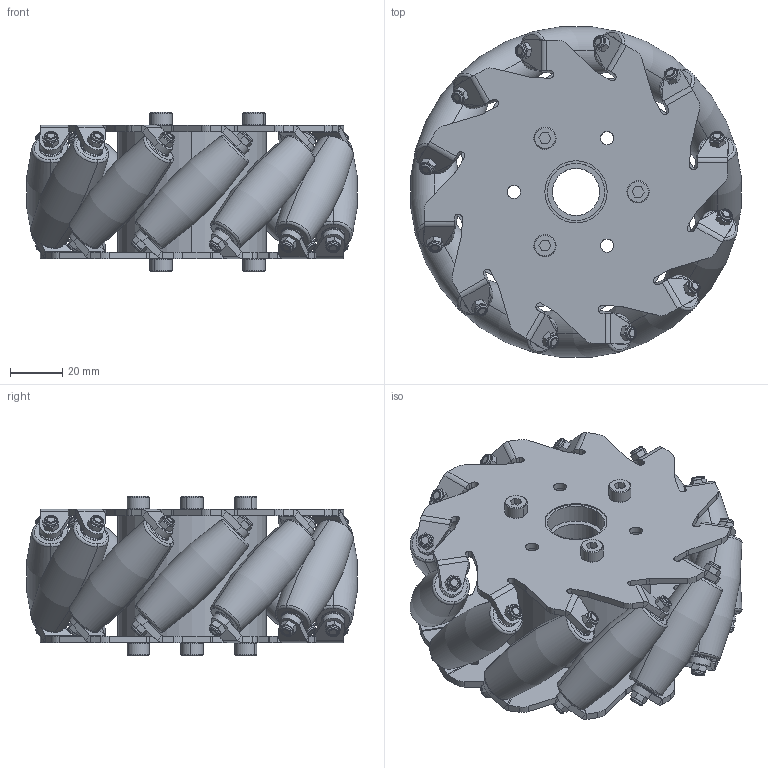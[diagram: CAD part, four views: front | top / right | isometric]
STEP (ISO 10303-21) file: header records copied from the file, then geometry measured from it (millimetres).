
FILE_DESCRIPTION (( 'STEP AP214' ), '1' );
FILE_NAME ('14193.STEP', '2018-01-09T13:31:20', ( 'nss000' ), ( 'Microsoft' ), 'SwSTEP 2.0', 'SolidWorks 2016', '' );
FILE_SCHEMA (( 'AUTOMOTIVE_DESIGN' ));
Length unit declared in the file: millimetre
Products named in the file (9): LNJYZTLS-M5X12; 5IN45D9FLZ-02-01; 5IN45D9FLZ-03-00; 5IN45D9FLZ-03-03; FSLM-M3; 5IN45D9FLZ-03-02; 5IN45D9FLZ-03-01; 5IN45D9FLZ-01; 14193
Assembly tree (27 placements, depth 3):
  14193
    5IN45D9FLZ-01
    5IN45D9FLZ-03-00  x12
      5IN45D9FLZ-03-01
      5IN45D9FLZ-03-02
      FSLM-M3
      5IN45D9FLZ-03-03
    5IN45D9FLZ-02-01  x2
    LNJYZTLS-M5X12  x6
Bounding box: 126.5 x 126.5 x 61 mm (x, y, z)
Volume: 279290.1 mm3; surface area: 129322.8 mm2
Topology: 81 solids, 81 shells, 1838 faces, 4104 edges, 2516 vertices
Faces by surface type: cylinder 700, plane 670, cone 324, torus 120, bspline 24
Entity records: 12132 total; most frequent: CARTESIAN_POINT 2317, DIRECTION 2070, ORIENTED_EDGE 1892, EDGE_CURVE 946, AXIS2_PLACEMENT_3D 783, VERTEX_POINT 590, VECTOR 504, LINE 504
